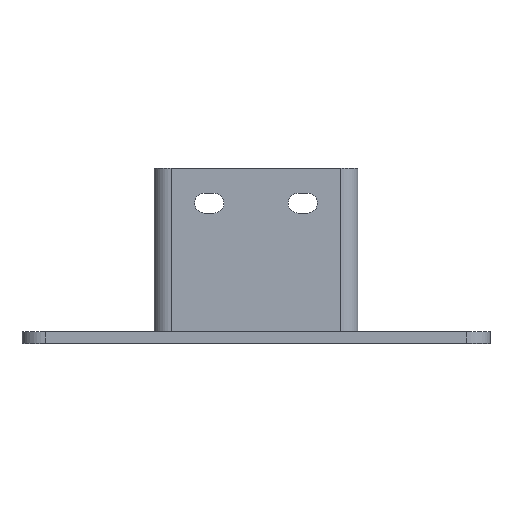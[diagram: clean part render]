
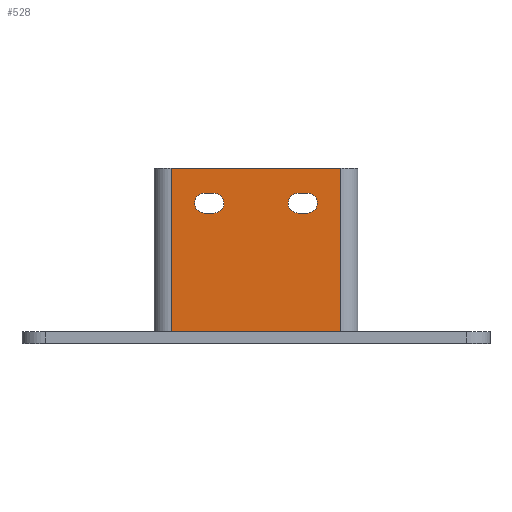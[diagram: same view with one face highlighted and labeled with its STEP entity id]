
A CAD part, top view. The second image highlights one B-rep face of the part: STEP entity #528.
In plain terms, the highlighted planar face has unit normal (0, 0, 1).
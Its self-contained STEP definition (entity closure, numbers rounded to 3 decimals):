
#17 = CARTESIAN_POINT ( 'NONE',  ( 36.2, -35., 0. ) ) ;
#36 = CARTESIAN_POINT ( 'NONE',  ( -43.5, -35., 0. ) ) ;
#64 = CARTESIAN_POINT ( 'NONE',  ( -13.75, 20., 0. ) ) ;
#80 = VECTOR ( 'NONE', #722, 1000. ) ;
#85 = ORIENTED_EDGE ( 'NONE', *, *, #2073, .F. ) ;
#107 = AXIS2_PLACEMENT_3D ( 'NONE', #1306, #1760, #772 ) ;
#116 = EDGE_CURVE ( 'Edge7', #1546, #736, #1260, .T. ) ;
#121 = CARTESIAN_POINT ( 'NONE',  ( -18., 20., 0. ) ) ;
#137 = DIRECTION ( 'NONE',  ( 0., 0., 1. ) ) ;
#142 = VECTOR ( 'NONE', #2026, 1000. ) ;
#167 = CARTESIAN_POINT ( 'NONE',  ( -36.2, 35., 0. ) ) ;
#174 = DIRECTION ( 'NONE',  ( 1., 0., 0. ) ) ;
#178 = FACE_OUTER_BOUND ( 'NONE', #279, .T. ) ;
#233 = EDGE_CURVE ( 'Edge8', #1885, #2345, #588, .T. ) ;
#238 = AXIS2_PLACEMENT_3D ( 'NONE', #690, #137, #1268 ) ;
#248 = EDGE_LOOP ( 'NONE', ( #2370, #871, #1868, #2230, #1314 ) ) ;
#264 = ORIENTED_EDGE ( 'NONE', *, *, #478, .F. ) ;
#276 = EDGE_CURVE ( 'NONE', #732, #776, #1730, .T. ) ;
#279 = EDGE_LOOP ( 'NONE', ( #1490, #2176, #1049, #425 ) ) ;
#318 = AXIS2_PLACEMENT_3D ( 'NONE', #121, #2253, #2467 ) ;
#352 = CARTESIAN_POINT ( 'NONE',  ( -22., 20., 0. ) ) ;
#383 = DIRECTION ( 'NONE',  ( -1., 0., 0. ) ) ;
#425 = ORIENTED_EDGE ( 'NONE', *, *, #2319, .T. ) ;
#429 = LINE ( 'NONE', #2393, #142 ) ;
#434 = VERTEX_POINT ( 'NONE', #2155 ) ;
#447 = CARTESIAN_POINT ( 'NONE',  ( 36.2, 35., 0. ) ) ;
#454 = CIRCLE ( 'NONE', #1393, 4.25 ) ;
#458 = VERTEX_POINT ( 'NONE', #1590 ) ;
#459 = CARTESIAN_POINT ( 'NONE',  ( 18., 15.75, 0. ) ) ;
#478 = EDGE_CURVE ( 'NONE', #1212, #434, #967, .T. ) ;
#496 = LINE ( 'NONE', #167, #80 ) ;
#528 = ADVANCED_FACE ( 'Face6', ( #2528, #1988, #178 ), #1358, .F. ) ;
#529 = CARTESIAN_POINT ( 'NONE',  ( -18., 15.75, 0. ) ) ;
#539 = DIRECTION ( 'NONE',  ( 1., 0., 0. ) ) ;
#588 = CIRCLE ( 'NONE', #1617, 4.25 ) ;
#604 = AXIS2_PLACEMENT_3D ( 'NONE', #2147, #761, #383 ) ;
#639 = CARTESIAN_POINT ( 'NONE',  ( -18., 24.25, 0. ) ) ;
#650 = CIRCLE ( 'NONE', #238, 4.25 ) ;
#675 = VERTEX_POINT ( 'NONE', #64 ) ;
#687 = CARTESIAN_POINT ( 'NONE',  ( 22., 15.75, 0. ) ) ;
#690 = CARTESIAN_POINT ( 'NONE',  ( 22., 20., 0. ) ) ;
#700 = VERTEX_POINT ( 'NONE', #639 ) ;
#701 = VECTOR ( 'NONE', #539, 1000. ) ;
#722 = DIRECTION ( 'NONE',  ( 0., -1., 0. ) ) ;
#732 = VERTEX_POINT ( 'NONE', #459 ) ;
#736 = VERTEX_POINT ( 'NONE', #447 ) ;
#744 = DIRECTION ( 'NONE',  ( 1., 0., 0. ) ) ;
#755 = VECTOR ( 'NONE', #1207, 1000. ) ;
#761 = DIRECTION ( 'NONE',  ( 0., 0., -1. ) ) ;
#772 = DIRECTION ( 'NONE',  ( 1., 0., 0. ) ) ;
#776 = VERTEX_POINT ( 'NONE', #687 ) ;
#785 = CARTESIAN_POINT ( 'NONE',  ( 18., 24.25, 0. ) ) ;
#850 = CARTESIAN_POINT ( 'NONE',  ( 36.2, -35., 0. ) ) ;
#871 = ORIENTED_EDGE ( 'NONE', *, *, #233, .F. ) ;
#877 = EDGE_CURVE ( 'NONE', #1600, #458, #496, .T. ) ;
#888 = CIRCLE ( 'NONE', #318, 4.25 ) ;
#904 = VECTOR ( 'NONE', #1470, 1000. ) ;
#967 = LINE ( 'NONE', #785, #1798 ) ;
#984 = DIRECTION ( 'NONE',  ( 0., 0., 1. ) ) ;
#1001 = CARTESIAN_POINT ( 'NONE',  ( -18., 20., 0. ) ) ;
#1012 = LINE ( 'NONE', #1630, #755 ) ;
#1025 = EDGE_CURVE ( 'NONE', #2345, #2020, #1909, .T. ) ;
#1049 = ORIENTED_EDGE ( 'NONE', *, *, #116, .T. ) ;
#1062 = CIRCLE ( 'NONE', #2052, 4.25 ) ;
#1113 = VECTOR ( 'NONE', #2193, 1000. ) ;
#1145 = VECTOR ( 'NONE', #2027, 1000. ) ;
#1173 = DIRECTION ( 'NONE',  ( 1., 0., 0. ) ) ;
#1186 = CARTESIAN_POINT ( 'NONE',  ( 26.25, 20., 0. ) ) ;
#1207 = DIRECTION ( 'NONE',  ( -1., 0., 0. ) ) ;
#1212 = VERTEX_POINT ( 'NONE', #1664 ) ;
#1242 = EDGE_CURVE ( 'NONE', #776, #1424, #1391, .T. ) ;
#1260 = LINE ( 'NONE', #850, #904 ) ;
#1265 = ORIENTED_EDGE ( 'NONE', *, *, #2479, .F. ) ;
#1268 = DIRECTION ( 'NONE',  ( 1., 0., 0. ) ) ;
#1306 = CARTESIAN_POINT ( 'NONE',  ( 22., 20., 0. ) ) ;
#1314 = ORIENTED_EDGE ( 'NONE', *, *, #2446, .F. ) ;
#1358 = PLANE ( 'NONE',  #604 ) ;
#1363 = DIRECTION ( 'NONE',  ( 0., 0., 1. ) ) ;
#1391 = CIRCLE ( 'NONE', #107, 4.25 ) ;
#1393 = AXIS2_PLACEMENT_3D ( 'NONE', #2537, #984, #174 ) ;
#1402 = ORIENTED_EDGE ( 'NONE', *, *, #276, .F. ) ;
#1408 = LINE ( 'NONE', #36, #1113 ) ;
#1424 = VERTEX_POINT ( 'NONE', #1186 ) ;
#1470 = DIRECTION ( 'NONE',  ( 0., 1., 0. ) ) ;
#1490 = ORIENTED_EDGE ( 'NONE', *, *, #877, .T. ) ;
#1522 = EDGE_CURVE ( 'NONE', #675, #700, #1062, .T. ) ;
#1546 = VERTEX_POINT ( 'NONE', #17 ) ;
#1557 = EDGE_LOOP ( 'NONE', ( #1402, #85, #264, #1265, #1951 ) ) ;
#1579 = DIRECTION ( 'NONE',  ( -1., 0., 0. ) ) ;
#1590 = CARTESIAN_POINT ( 'NONE',  ( -36.2, -35., 0. ) ) ;
#1600 = VERTEX_POINT ( 'NONE', #1616 ) ;
#1616 = CARTESIAN_POINT ( 'NONE',  ( -36.2, 35., 0. ) ) ;
#1617 = AXIS2_PLACEMENT_3D ( 'NONE', #352, #2511, #744 ) ;
#1630 = CARTESIAN_POINT ( 'NONE',  ( -22., 24.25, 0. ) ) ;
#1664 = CARTESIAN_POINT ( 'NONE',  ( 22., 24.25, 0. ) ) ;
#1730 = LINE ( 'NONE', #2506, #701 ) ;
#1760 = DIRECTION ( 'NONE',  ( 0., 0., 1. ) ) ;
#1798 = VECTOR ( 'NONE', #1579, 1000. ) ;
#1824 = CARTESIAN_POINT ( 'NONE',  ( -22., 24.25, 0. ) ) ;
#1868 = ORIENTED_EDGE ( 'NONE', *, *, #2238, .F. ) ;
#1885 = VERTEX_POINT ( 'NONE', #1824 ) ;
#1906 = EDGE_CURVE ( 'Edge12', #458, #1546, #1408, .T. ) ;
#1909 = LINE ( 'NONE', #2324, #1145 ) ;
#1951 = ORIENTED_EDGE ( 'NONE', *, *, #1242, .F. ) ;
#1988 = FACE_BOUND ( 'NONE', #248, .T. ) ;
#2020 = VERTEX_POINT ( 'NONE', #529 ) ;
#2026 = DIRECTION ( 'NONE',  ( -1., 0., 0. ) ) ;
#2027 = DIRECTION ( 'NONE',  ( 1., 0., 0. ) ) ;
#2052 = AXIS2_PLACEMENT_3D ( 'NONE', #1001, #1363, #1173 ) ;
#2073 = EDGE_CURVE ( 'NONE', #434, #732, #454, .T. ) ;
#2074 = CARTESIAN_POINT ( 'NONE',  ( -22., 15.75, 0. ) ) ;
#2147 = CARTESIAN_POINT ( 'NONE',  ( 0., 0., 0. ) ) ;
#2155 = CARTESIAN_POINT ( 'NONE',  ( 18., 24.25, 0. ) ) ;
#2176 = ORIENTED_EDGE ( 'NONE', *, *, #1906, .T. ) ;
#2193 = DIRECTION ( 'NONE',  ( 1., 0., 0. ) ) ;
#2230 = ORIENTED_EDGE ( 'NONE', *, *, #1522, .F. ) ;
#2238 = EDGE_CURVE ( 'NONE', #700, #1885, #1012, .T. ) ;
#2253 = DIRECTION ( 'NONE',  ( 0., 0., 1. ) ) ;
#2319 = EDGE_CURVE ( 'Edge5', #736, #1600, #429, .T. ) ;
#2324 = CARTESIAN_POINT ( 'NONE',  ( -22., 15.75, 0. ) ) ;
#2345 = VERTEX_POINT ( 'NONE', #2074 ) ;
#2370 = ORIENTED_EDGE ( 'NONE', *, *, #1025, .F. ) ;
#2393 = CARTESIAN_POINT ( 'NONE',  ( -43.5, 35., 0. ) ) ;
#2446 = EDGE_CURVE ( 'NONE', #2020, #675, #888, .T. ) ;
#2467 = DIRECTION ( 'NONE',  ( 1., 0., 0. ) ) ;
#2479 = EDGE_CURVE ( 'NONE', #1424, #1212, #650, .T. ) ;
#2506 = CARTESIAN_POINT ( 'NONE',  ( 18., 15.75, 0. ) ) ;
#2511 = DIRECTION ( 'NONE',  ( 0., 0., 1. ) ) ;
#2528 = FACE_BOUND ( 'NONE', #1557, .T. ) ;
#2537 = CARTESIAN_POINT ( 'NONE',  ( 18., 20., 0. ) ) ;
